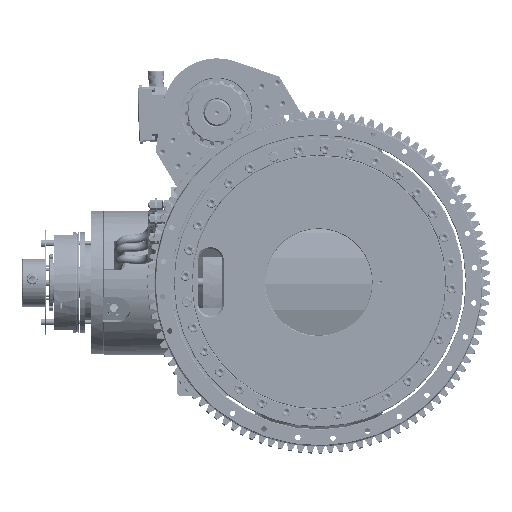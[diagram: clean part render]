
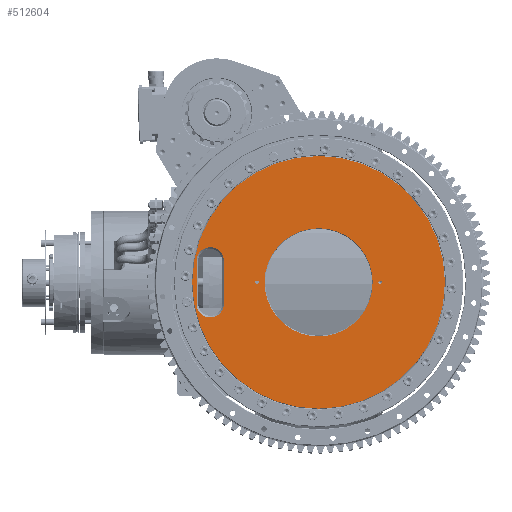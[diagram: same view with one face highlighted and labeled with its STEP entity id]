
A CAD part, top view. The second image highlights one B-rep face of the part: STEP entity #512604.
In plain terms, the highlighted planar face has unit normal (0, 0, 1).
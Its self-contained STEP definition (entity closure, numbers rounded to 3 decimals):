
#6149=FACE_BOUND('',#69988,.T.);
#6150=FACE_BOUND('',#69989,.T.);
#6151=FACE_BOUND('',#69990,.T.);
#6152=FACE_BOUND('',#69991,.T.);
#17136=PLANE('',#551939);
#42920=FACE_OUTER_BOUND('',#69987,.T.);
#69987=EDGE_LOOP('',(#390211));
#69988=EDGE_LOOP('',(#390212));
#69989=EDGE_LOOP('',(#390213));
#69990=EDGE_LOOP('',(#390214));
#69991=EDGE_LOOP('',(#390215,#390216,#390217,#390218));
#109743=LINE('',#809851,#157061);
#109748=LINE('',#809861,#157066);
#157061=VECTOR('',#646679,10.);
#157066=VECTOR('',#646690,10.);
#195973=CIRCLE('',#551932,25.5);
#195975=CIRCLE('',#551936,25.5);
#195976=CIRCLE('',#551940,236.);
#195977=CIRCLE('',#551941,101.);
#195978=CIRCLE('',#551942,3.324);
#195979=CIRCLE('',#551943,3.324);
#231463=VERTEX_POINT('',#809848);
#231464=VERTEX_POINT('',#809850);
#231465=VERTEX_POINT('',#809855);
#231466=VERTEX_POINT('',#809859);
#231467=VERTEX_POINT('',#809869);
#231468=VERTEX_POINT('',#809871);
#231469=VERTEX_POINT('',#809873);
#231470=VERTEX_POINT('',#809875);
#290965=EDGE_CURVE('',#231463,#231464,#109743,.T.);
#290969=EDGE_CURVE('',#231464,#231465,#195973,.T.);
#290971=EDGE_CURVE('',#231465,#231466,#109748,.T.);
#290973=EDGE_CURVE('',#231466,#231463,#195975,.T.);
#290975=EDGE_CURVE('',#231467,#231467,#195976,.T.);
#290976=EDGE_CURVE('',#231468,#231468,#195977,.T.);
#290977=EDGE_CURVE('',#231469,#231469,#195978,.T.);
#290978=EDGE_CURVE('',#231470,#231470,#195979,.T.);
#390211=ORIENTED_EDGE('',*,*,#290975,.F.);
#390212=ORIENTED_EDGE('',*,*,#290976,.F.);
#390213=ORIENTED_EDGE('',*,*,#290977,.T.);
#390214=ORIENTED_EDGE('',*,*,#290978,.T.);
#390215=ORIENTED_EDGE('',*,*,#290965,.F.);
#390216=ORIENTED_EDGE('',*,*,#290973,.F.);
#390217=ORIENTED_EDGE('',*,*,#290971,.F.);
#390218=ORIENTED_EDGE('',*,*,#290969,.F.);
#512604=ADVANCED_FACE('',(#42920,#6149,#6150,#6151,#6152),#17136,.F.);
#551932=AXIS2_PLACEMENT_3D('',#809857,#646685,#646686);
#551936=AXIS2_PLACEMENT_3D('',#809864,#646695,#646696);
#551939=AXIS2_PLACEMENT_3D('',#809868,#646702,#646703);
#551940=AXIS2_PLACEMENT_3D('',#809870,#646704,#646705);
#551941=AXIS2_PLACEMENT_3D('',#809872,#646706,#646707);
#551942=AXIS2_PLACEMENT_3D('',#809874,#646708,#646709);
#551943=AXIS2_PLACEMENT_3D('',#809876,#646710,#646711);
#646679=DIRECTION('',(0.,1.,0.));
#646685=DIRECTION('center_axis',(0.,0.,
1.));
#646686=DIRECTION('ref_axis',(-1.,0.,0.));
#646690=DIRECTION('',(0.,-1.,0.));
#646695=DIRECTION('center_axis',(0.,0.,
1.));
#646696=DIRECTION('ref_axis',(1.,0.,0.));
#646702=DIRECTION('center_axis',(0.,0.,
-1.));
#646703=DIRECTION('ref_axis',(-1.,0.,0.));
#646704=DIRECTION('center_axis',(0.,0.,
-1.));
#646705=DIRECTION('ref_axis',(-1.,0.,0.));
#646706=DIRECTION('center_axis',(0.,0.,
1.));
#646707=DIRECTION('ref_axis',(-1.,0.,0.));
#646708=DIRECTION('center_axis',(0.,0.,
-1.));
#646709=DIRECTION('ref_axis',(1.,0.,0.));
#646710=DIRECTION('center_axis',(0.,0.,
-1.));
#646711=DIRECTION('ref_axis',(1.,0.,0.));
#809848=CARTESIAN_POINT('',(-11.,-40.,344.));
#809850=CARTESIAN_POINT('',(-11.,40.,344.));
#809851=CARTESIAN_POINT('',(-11.,20.,344.));
#809855=CARTESIAN_POINT('',(-62.,40.,344.));
#809857=CARTESIAN_POINT('Origin',(-36.5,40.,344.));
#809859=CARTESIAN_POINT('',(-62.,-40.,344.));
#809861=CARTESIAN_POINT('',(-62.,-20.,344.));
#809864=CARTESIAN_POINT('Origin',(-36.5,-40.,344.));
#809868=CARTESIAN_POINT('Origin',(166.,0.,344.));
#809869=CARTESIAN_POINT('',(402.,0.,344.));
#809870=CARTESIAN_POINT('Origin',(166.,0.,344.));
#809871=CARTESIAN_POINT('',(267.,0.,344.));
#809872=CARTESIAN_POINT('Origin',(166.,0.,344.));
#809873=CARTESIAN_POINT('',(47.677,0.,344.));
#809874=CARTESIAN_POINT('Origin',(51.,0.,
344.));
#809875=CARTESIAN_POINT('',(277.677,0.,344.));
#809876=CARTESIAN_POINT('Origin',(281.,0.,344.));
